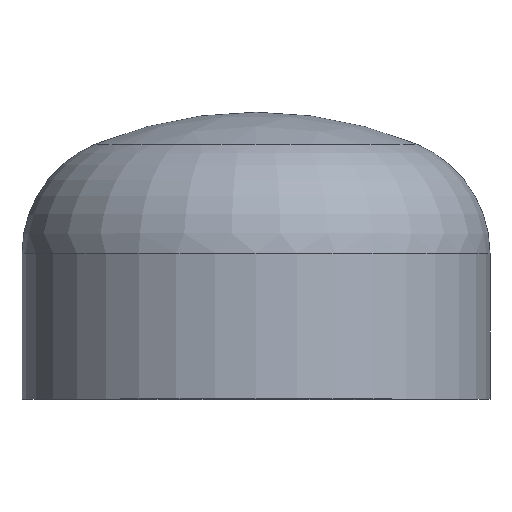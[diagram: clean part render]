
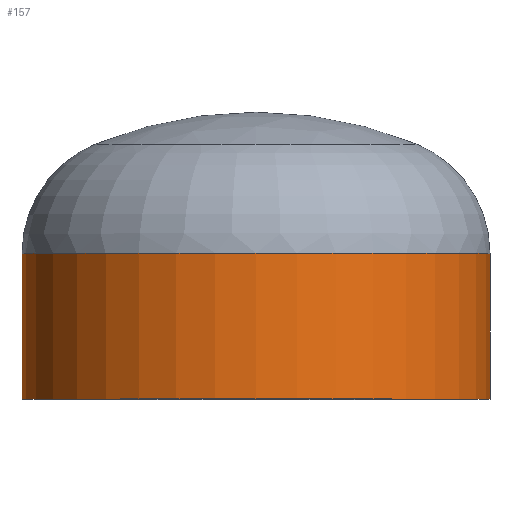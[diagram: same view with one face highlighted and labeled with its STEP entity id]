
A CAD part, top view. The second image highlights one B-rep face of the part: STEP entity #157.
In plain terms, the highlighted cylindrical face has radius 136.5 mm (diameter 273 mm), a partial arc.
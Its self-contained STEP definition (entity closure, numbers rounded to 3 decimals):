
#6 = EDGE_LOOP ( 'NONE', ( #97, #32, #28, #130 ) ) ;
#9 = VERTEX_POINT ( 'NONE', #351 ) ;
#18 = VERTEX_POINT ( 'NONE', #357 ) ;
#28 = ORIENTED_EDGE ( 'NONE', *, *, #362, .F. ) ;
#32 = ORIENTED_EDGE ( 'NONE', *, *, #366, .T. ) ;
#37 = AXIS2_PLACEMENT_3D ( 'NONE', #333, #220, #309 ) ;
#66 = VERTEX_POINT ( 'NONE', #240 ) ;
#83 = AXIS2_PLACEMENT_3D ( 'NONE', #319, #316, #305 ) ;
#90 = EDGE_CURVE ( 'NONE', #18, #136, #207, .T. ) ;
#97 = ORIENTED_EDGE ( 'NONE', *, *, #90, .T. ) ;
#126 = VECTOR ( 'NONE', #347, 1000. ) ;
#130 = ORIENTED_EDGE ( 'NONE', *, *, #388, .F. ) ;
#136 = VERTEX_POINT ( 'NONE', #167 ) ;
#157 = ADVANCED_FACE ( 'NONE', ( #181 ), #300, .T. ) ;
#167 = CARTESIAN_POINT ( 'NONE',  ( -136.5, 85., 0. ) ) ;
#178 = CARTESIAN_POINT ( 'NONE',  ( -136.5, 0., 0. ) ) ;
#181 = FACE_OUTER_BOUND ( 'NONE', #6, .T. ) ;
#201 = LINE ( 'NONE', #178, #126 ) ;
#204 = CARTESIAN_POINT ( 'NONE',  ( 136.5, 0., 0. ) ) ;
#207 = CIRCLE ( 'NONE', #83, 136.5 ) ;
#220 = DIRECTION ( 'NONE',  ( 0., -1., 0. ) ) ;
#240 = CARTESIAN_POINT ( 'NONE',  ( 136.5, 0., 0. ) ) ;
#253 = CARTESIAN_POINT ( 'NONE',  ( 0., 0., 0. ) ) ;
#268 = LINE ( 'NONE', #204, #318 ) ;
#276 = DIRECTION ( 'NONE',  ( 1., 0., 0. ) ) ;
#300 = CYLINDRICAL_SURFACE ( 'NONE', #37, 136.5 ) ;
#305 = DIRECTION ( 'NONE',  ( 1., 0., 0. ) ) ;
#309 = DIRECTION ( 'NONE',  ( 1., 0., 0. ) ) ;
#316 = DIRECTION ( 'NONE',  ( 0., -1., 0. ) ) ;
#318 = VECTOR ( 'NONE', #368, 1000. ) ;
#319 = CARTESIAN_POINT ( 'NONE',  ( 0., 85., 0. ) ) ;
#329 = AXIS2_PLACEMENT_3D ( 'NONE', #253, #409, #276 ) ;
#333 = CARTESIAN_POINT ( 'NONE',  ( 0., 0., 0. ) ) ;
#338 = CIRCLE ( 'NONE', #329, 136.5 ) ;
#347 = DIRECTION ( 'NONE',  ( 0., -1., 0. ) ) ;
#351 = CARTESIAN_POINT ( 'NONE',  ( -136.5, 0., 0. ) ) ;
#357 = CARTESIAN_POINT ( 'NONE',  ( 136.5, 85., 0. ) ) ;
#362 = EDGE_CURVE ( 'NONE', #66, #9, #338, .T. ) ;
#366 = EDGE_CURVE ( 'NONE', #136, #9, #201, .T. ) ;
#368 = DIRECTION ( 'NONE',  ( 0., -1., 0. ) ) ;
#388 = EDGE_CURVE ( 'NONE', #18, #66, #268, .T. ) ;
#409 = DIRECTION ( 'NONE',  ( 0., -1., 0. ) ) ;
